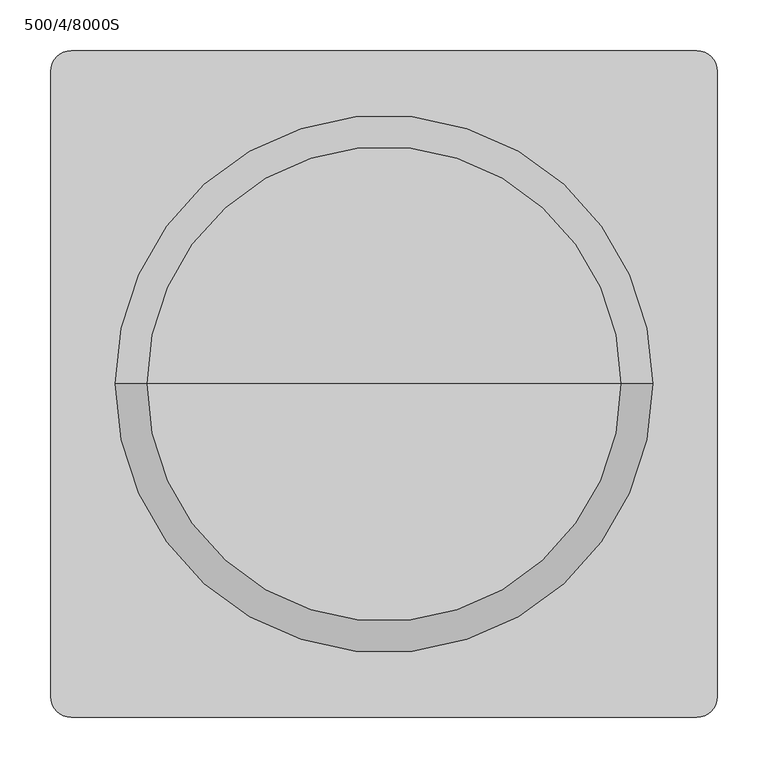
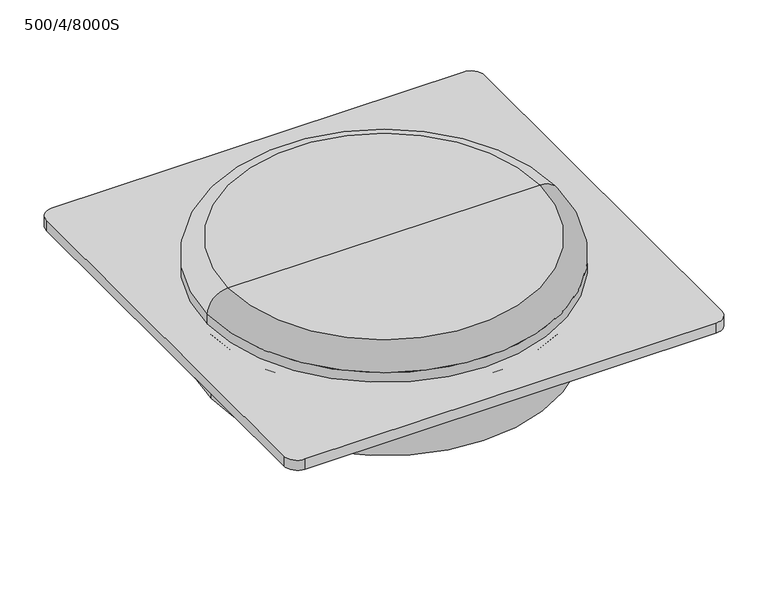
"""IFC4 building model written with IfcOpenShell, lengths in millimetres: unitary equipment geometry, VE-Wentylator-ParaForma-Harmann-WAF-Wywiewny : 500/4/8000S."""

from ifc_helpers import new_model, si_unit, point, frame, frame_2d, origin, origin_with_axes, origin_2d, place, context, project, spatial, polyline, circle_curve, ellipse_curve, trimmed, segment, composite_curve, outline, extrude, source, transform, mapped, element, save
from ifc_brep_helpers import plane_surface, cylinder_surface, revolved_surface, advanced_brep


def unitary_equipment_500_4_8000s_2462a508(model_context):
    return source(origin(), model_context, "Body", "SolidModel", [
        advanced_brep(
        [(264.0, 0.0, 16.0), (-264.0, 0.0, 16.0), (0.0, 0.0, 16.0), (264.0, 0.0, 31.3333333), (-264.0, 0.0, 31.3333333), (233.3333333, 0.0, 62.0), (-233.3333333, 0.0, 62.0), (0.0, 0.0, 62.0)],
        [
            (0, 1, circle_curve(frame((0.0, 0.0, 16.0), z_axis=(0.0, 0.0, -1.0), x_axis=(-1.0000000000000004, 0.0, 0.0)), 264.0)),
            (1, 2),
            (2, 0),
            (1, 0, circle_curve(frame((0.0, 0.0, 16.0), z_axis=(0.0, 0.0, -1.0), x_axis=(-1.0000000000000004, 0.0, 0.0)), 264.0)),
            (3, 4, circle_curve(frame((0.0, 0.0, 31.3333333), z_axis=(0.0, 0.0, -1.0), x_axis=(-1.0000000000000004, 0.0, 0.0)), 264.0)),
            (4, 1),
            (0, 3),
            (4, 3, circle_curve(frame((0.0, 0.0, 31.3333333), z_axis=(0.0, 0.0, -1.0), x_axis=(-1.0000000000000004, 0.0, 0.0)), 264.0)),
            (5, 6, circle_curve(frame((0.0, 0.0, 62.0), z_axis=(0.0, 0.0, -1.0), x_axis=(-1.0000000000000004, 0.0, 0.0)), 233.3333333)),
            (6, 4, circle_curve(frame((-233.3333333, 0.0, 31.3333333), z_axis=(0.0, -1.0000000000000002, 0.0), x_axis=(0.0, 0.0, -1.0000000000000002)), 30.6666667)),
            (3, 5, circle_curve(frame((233.3333333, 0.0, 31.3333333), z_axis=(0.0, -1.0000000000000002, 0.0), x_axis=(0.0, 0.0, -1.0000000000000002)), 30.6666667)),
            (6, 5, circle_curve(frame((0.0, 0.0, 62.0), z_axis=(0.0, 0.0, -1.0), x_axis=(-1.0000000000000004, 0.0, 0.0)), 233.3333333)),
            (7, 6),
            (5, 7),
        ],
        [
            plane_surface(frame((0.0, 0.0, 16.0), z_axis=(0.0, 0.0, -1.0), x_axis=(-1.0, 0.0, 0.0))),
            cylinder_surface(frame((0.0, 0.0, 62.0), z_axis=(0.0, 0.0, 1.0000000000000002), x_axis=(-1.0000000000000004, 0.0, 0.0)), 264.0),
            revolved_surface(trimmed(ellipse_curve(frame((-233.3333333, 0.0, 31.3333333), z_axis=(0.0, 1.0000000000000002, 0.0), x_axis=(0.0, 0.0, -1.0000000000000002)), 30.6666667, 30.6666667), [point((-264.0, 0.0, 31.3333333))], [point((-233.3333333, 0.0, 62.0))], True, "CARTESIAN"), (0.0, 0.0, 62.0), (0.0, 0.0, 1.0000000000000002)),
            plane_surface(frame((0.0, 0.0, 62.0), z_axis=(0.0, 0.0, 1.0), x_axis=(-1.0, 0.0, 0.0))),
        ],
        [
            (0, [[1, 2, 3]]),
            (0, [[4, -3, -2]]),
            (1, [[5, 6, -1, 7]]),
            (1, [[8, -7, -4, -6]]),
            (2, [[9, 10, -5, 11]]),
            (2, [[12, -11, -8, -10]]),
            (3, [[13, -9, 14]]),
            (3, [[-14, -12, -13]]),
        ],
    ),
        extrude(outline(composite_curve([segment(trimmed(circle_curve(origin_2d(), 79.2), [point((79.2, 0.0))], [point((-79.2, 0.0))], False, "CARTESIAN"), True, "CONTINUOUS"), segment(trimmed(circle_curve(origin_2d(), 79.2), [point((-79.2, 0.0))], [point((79.2, 0.0))], False, "CARTESIAN"), True, "CONTINUOUS")], self_intersect=False)), frame((0.0, 0.0, -143.0), z_axis=(0.0, 0.0, 1.0), x_axis=(1.0, 0.0, 0.0)), (0.0, 0.0, 1.0), 39.0),
        advanced_brep(
        [(0.0, 0.0, 0.0), (-264.0, 0.0, 0.0), (264.0, 0.0, 0.0), (258.5, 0.0, -104.0), (-258.5, 0.0, -104.0), (0.0, 0.0, -104.0), (258.5, 0.0, -5.5), (-258.5, 0.0, -5.5)],
        [
            (0, 1),
            (1, 2, circle_curve(frame((0.0, 0.0, 0.0), z_axis=(0.0, 0.0, 1.0), x_axis=(-1.0000000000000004, 0.0, 0.0)), 264.0)),
            (2, 0),
            (2, 1, circle_curve(frame((0.0, 0.0, 0.0), z_axis=(0.0, 0.0, 1.0), x_axis=(-1.0000000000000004, 0.0, 0.0)), 264.0)),
            (3, 4, circle_curve(frame((0.0, 0.0, -104.0), z_axis=(0.0, 0.0, -1.0), x_axis=(-1.0000000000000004, 0.0, 0.0)), 258.5)),
            (4, 5),
            (5, 3),
            (4, 3, circle_curve(frame((0.0, 0.0, -104.0), z_axis=(0.0, 0.0, -1.0), x_axis=(-1.0000000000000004, 0.0, 0.0)), 258.5)),
            (6, 7, circle_curve(frame((0.0, 0.0, -5.5), z_axis=(0.0, 0.0, -1.0), x_axis=(-1.0000000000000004, 0.0, 0.0)), 258.5)),
            (7, 4),
            (3, 6),
            (7, 6, circle_curve(frame((0.0, 0.0, -5.5), z_axis=(0.0, 0.0, -1.0), x_axis=(-1.0000000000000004, 0.0, 0.0)), 258.5)),
            (1, 7, circle_curve(frame((-264.0, 0.0, -5.5), z_axis=(0.0, 1.0000000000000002, 0.0), x_axis=(0.0, 0.0, -1.0000000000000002)), 5.5)),
            (6, 2, circle_curve(frame((264.0, 0.0, -5.5), z_axis=(0.0, 1.0000000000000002, 0.0), x_axis=(0.0, 0.0, -1.0000000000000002)), 5.5)),
        ],
        [
            plane_surface(frame((0.0, 0.0, 0.0), z_axis=(0.0, 0.0, 1.0), x_axis=(-1.0, 0.0, 0.0))),
            plane_surface(frame((0.0, 0.0, -104.0), z_axis=(0.0, 0.0, -1.0), x_axis=(-1.0, 0.0, 0.0))),
            cylinder_surface(frame((0.0, 0.0, 0.0), z_axis=(0.0, 0.0, 1.0000000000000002), x_axis=(-1.0000000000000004, 0.0, 0.0)), 258.5),
            revolved_surface(trimmed(ellipse_curve(frame((-264.0, 0.0, -5.5), z_axis=(0.0, -1.0000000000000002, 0.0), x_axis=(0.0, 0.0, -1.0000000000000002)), 5.5, 5.5), [point((-258.5, 0.0, -5.5))], [point((-264.0, 0.0, 0.0))], True, "CARTESIAN"), (0.0, 0.0, 0.0), (0.0, 0.0, 1.0000000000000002)),
        ],
        [
            (0, [[1, 2, 3]]),
            (0, [[-3, 4, -1]]),
            (1, [[5, 6, 7]]),
            (1, [[8, -7, -6]]),
            (2, [[9, 10, -5, 11]]),
            (2, [[12, -11, -8, -10]]),
            (3, [[-2, 13, -9, 14]]),
            (3, [[-4, -14, -12, -13]]),
        ],
    ),
        extrude(outline(composite_curve([segment(polyline([(307.5, -327.5), (-307.5, -327.5)]), True, "CONTINUOUS"), segment(trimmed(circle_curve(frame_2d((-307.5, -307.5)), 20.0), [point((-307.5, -327.5))], [point((-327.5, -307.5))], False, "CARTESIAN"), True, "CONTINUOUS"), segment(polyline([(-327.5, -307.5), (-327.5, 307.5)]), True, "CONTINUOUS"), segment(trimmed(circle_curve(frame_2d((-307.5, 307.5)), 20.0), [point((-327.5, 307.5))], [point((-307.5, 327.5))], False, "CARTESIAN"), True, "CONTINUOUS"), segment(polyline([(-307.5, 327.5), (307.5, 327.5)]), True, "CONTINUOUS"), segment(trimmed(circle_curve(frame_2d((307.5, 307.5)), 20.0), [point((307.5, 327.5))], [point((327.5, 307.5))], False, "CARTESIAN"), True, "CONTINUOUS"), segment(polyline([(327.5, 307.5), (327.5, -307.5)]), True, "CONTINUOUS"), segment(trimmed(circle_curve(frame_2d((307.5, -307.5)), 20.0), [point((327.5, -307.5))], [point((307.5, -327.5))], False, "CARTESIAN"), True, "CONTINUOUS")], self_intersect=False)), origin_with_axes(), (0.0, 0.0, 1.0), 16.0),
    ])


if __name__ == "__main__":
    model = new_model("IFC4")
    model_context = context("Model", 3, world=origin())
    ifc_project = project(units=[si_unit("LENGTHUNIT", "METRE", prefix="MILLI")], contexts=[model_context])
    site = spatial("IfcSite", under=ifc_project)
    building = spatial("IfcBuilding", under=site)
    placement = place(None, origin())
    unitary_equipment_500_4_8000s_shape = unitary_equipment_500_4_8000s_2462a508(model_context)
    element("IfcUnitaryEquipment", 1, ObjectType="VE-Wentylator-ParaForma-Harmann-WAF-Wywiewny : 500/4/8000S", at=placement, inside=building, context=model_context, shape_type="MappedRepresentation", body=[
        mapped(unitary_equipment_500_4_8000s_shape, transform((0.0, 0.0, 0.0), x_axis=(1.0, 0.0, 0.0), y_axis=(0.0, 1.0, 0.0), z_axis=(0.0, 0.0, 1.0))),
    ])
    save(model, "model.ifc")
